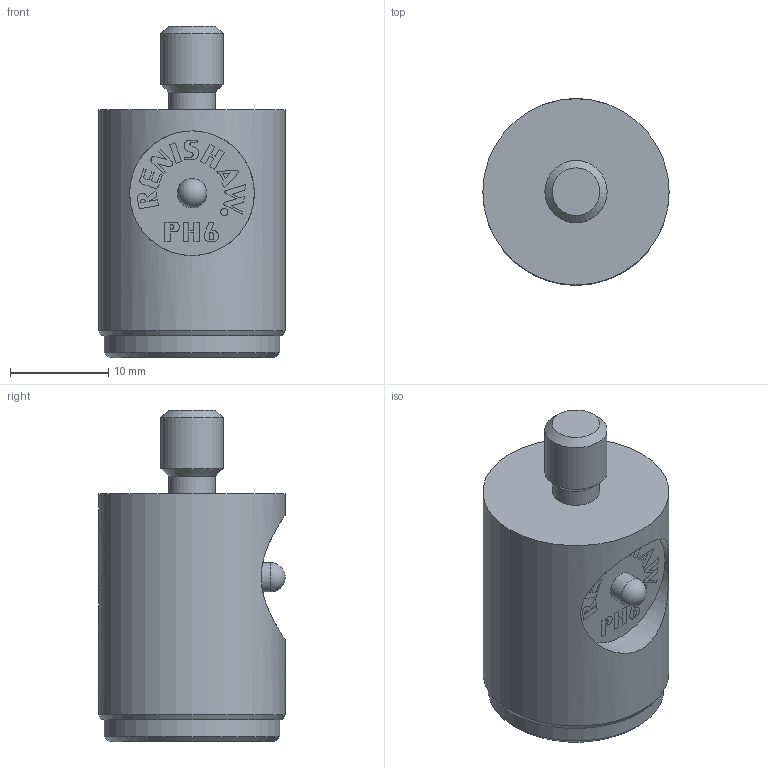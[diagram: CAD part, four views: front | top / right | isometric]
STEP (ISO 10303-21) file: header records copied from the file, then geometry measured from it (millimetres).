
FILE_DESCRIPTION(/* description */ (''),/* implementation_level */ '2;1');
FILE_NAME(/* name */ 'LA-1046-5000#-A.stp',/* time_stamp */ '2012-10-01T14:39:49+01:00',/* author */ (''),/* organization */ (''),/* preprocessor_version */ 'ST-DEVELOPER v11',/* originating_system */ 'SIEMENS PLM Software NX 7.5',/* authorisation */ '');
FILE_SCHEMA (('AUTOMOTIVE_DESIGN { 1 0 10303 214 1 1 1 1 }'));
Length unit declared in the file: millimetre
Products named in the file (1): rt1358637v5c
Bounding box: 18.98 x 18.98 x 33.75 mm (x, y, z)
Volume: 7004.3 mm3; surface area: 2287.8 mm2
Topology: 1 solids, 1 shells, 34 faces, 163 edges, 151 vertices
Faces by surface type: plane 22, cylinder 7, cone 4, sphere 1
Full cylindrical faces by diameter (mm): 3 x1, 4.75 x1, 6.35 x1, 12.7 x1, 17.9 x1, 18.975 x1
Entity records: 2158 total; most frequent: CARTESIAN_POINT 799, ORIENTED_EDGE 296, VERTEX_POINT 148, EDGE_CURVE 148, B_SPLINE_CURVE_WITH_KNOTS 133, DIRECTION 100, EDGE_LOOP 66, FACE_BOUND 50
